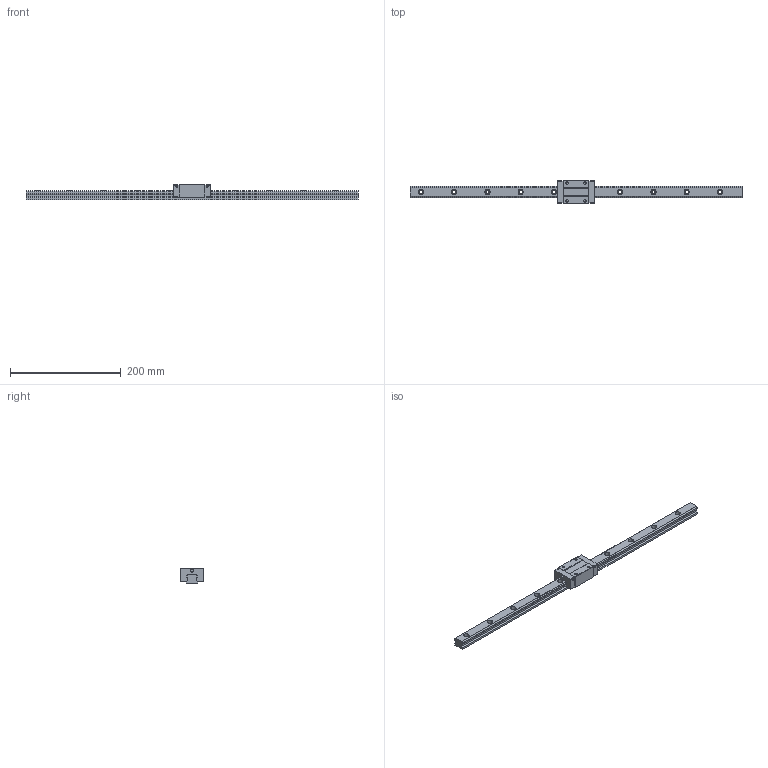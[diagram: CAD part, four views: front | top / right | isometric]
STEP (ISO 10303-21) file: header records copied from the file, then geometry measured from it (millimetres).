
FILE_DESCRIPTION (( 'STEP AP203' ), '1' );
FILE_NAME ('TRS20VN-XN.STEP', '2024-06-12T07:51:41', ( '' ), ( '' ), 'SwSTEP 2.0', 'SolidWorks 2022', '' );
FILE_SCHEMA (( 'CONFIG_CONTROL_DESIGN' ));
Length unit declared in the file: millimetre
Products named in the file (1): TRS20VN-XN
Bounding box: 600 x 42 x 28 mm (x, y, z)
Volume: 219266.3 mm3; surface area: 62133.1 mm2
Topology: 2 solids, 2 shells, 192 faces, 496 edges, 328 vertices
Faces by surface type: cylinder 96, plane 96
Entity records: 6023 total; most frequent: DIRECTION 1074, CARTESIAN_POINT 1017, ORIENTED_EDGE 992, EDGE_CURVE 496, AXIS2_PLACEMENT_3D 385, VERTEX_POINT 328, VECTOR 304, LINE 304
